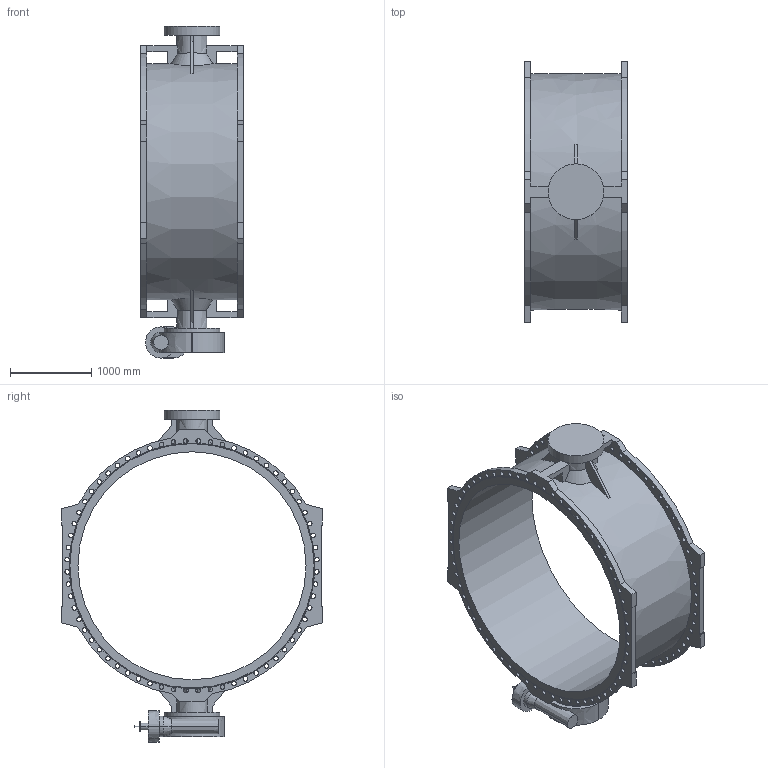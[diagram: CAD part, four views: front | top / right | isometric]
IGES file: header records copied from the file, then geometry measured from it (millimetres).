
Start section: SolidWorks IGES file using analytic representation for surfaces
Global section: file name: \\avksan2\techshare\PBM outline export from Enovia\O_756_102_DN2800_0XX020XX_REV05.igs; native system: SolidWorks 2019; preprocessor: SolidWorks 2019; author: pbm; date: 220516.114649; units: millimetre
Bounding box: 1270 x 3200 x 4077 mm (x, y, z)
Surface area: 36007445.7 mm2 (no closed solid volume)
Topology: 0 solids, 0 shells, 312 faces, 2290 edges, 2147 vertices
Faces by surface type: revolution 183, bspline 129
